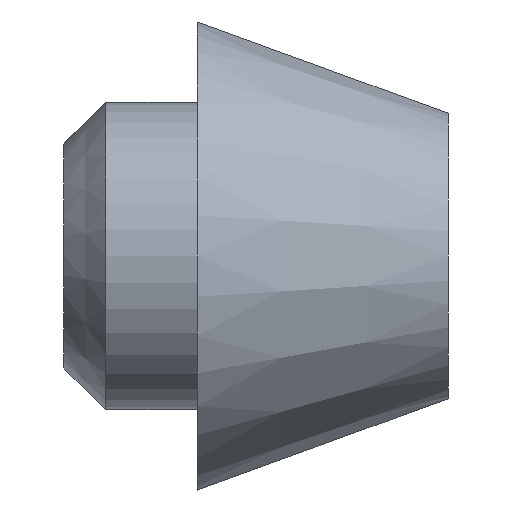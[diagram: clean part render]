
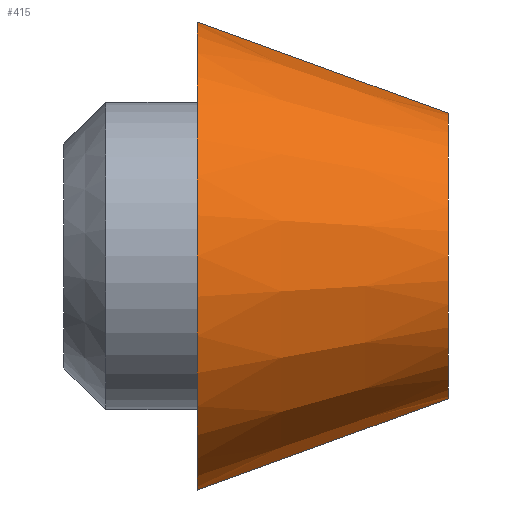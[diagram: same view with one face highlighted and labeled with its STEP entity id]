
A CAD part, left-side view. The second image highlights one B-rep face of the part: STEP entity #415.
In plain terms, the highlighted conical face has half-angle 20 degrees and reference radius 4.445 mm.
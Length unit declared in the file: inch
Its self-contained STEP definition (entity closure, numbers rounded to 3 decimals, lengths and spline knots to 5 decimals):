
#8 = DIRECTION ( 'NONE',  ( 0., 1., 0. ) ) ;
#10 = DIRECTION ( 'NONE',  ( 0., 1., 0. ) ) ;
#22 = DIRECTION ( 'NONE',  ( 0., 0., 1. ) ) ;
#25 = EDGE_CURVE ( 'NONE', #255, #74, #326, .T. ) ;
#31 = CARTESIAN_POINT ( 'NONE',  ( -0.5, 0., -0.175 ) ) ;
#45 = ORIENTED_EDGE ( 'NONE', *, *, #237, .F. ) ;
#58 = VERTEX_POINT ( 'NONE', #433 ) ;
#62 = CIRCLE ( 'NONE', #390, 0.175 ) ;
#74 = VERTEX_POINT ( 'NONE', #214 ) ;
#77 = CARTESIAN_POINT ( 'NONE',  ( -0.5, -0.1875, 0.10676 ) ) ;
#85 = ORIENTED_EDGE ( 'NONE', *, *, #25, .T. ) ;
#86 = EDGE_CURVE ( 'NONE', #58, #206, #322, .T. ) ;
#121 = ORIENTED_EDGE ( 'NONE', *, *, #86, .F. ) ;
#149 = DIRECTION ( 'NONE',  ( 0., 1., 0. ) ) ;
#153 = VECTOR ( 'NONE', #429, 39.37008 ) ;
#183 = CARTESIAN_POINT ( 'NONE',  ( -0.5, 0., 0. ) ) ;
#184 = CIRCLE ( 'NONE', #430, 0.10676 ) ;
#206 = VERTEX_POINT ( 'NONE', #372 ) ;
#208 = VECTOR ( 'NONE', #355, 39.37008 ) ;
#214 = CARTESIAN_POINT ( 'NONE',  ( -0.5, 0., 0.175 ) ) ;
#218 = DIRECTION ( 'NONE',  ( 0., 0., 1. ) ) ;
#225 = CARTESIAN_POINT ( 'NONE',  ( -0.5, -0.1875, 0. ) ) ;
#235 = CARTESIAN_POINT ( 'NONE',  ( -0.5, 0., 0. ) ) ;
#236 = ORIENTED_EDGE ( 'NONE', *, *, #244, .T. ) ;
#237 = EDGE_CURVE ( 'NONE', #206, #74, #62, .T. ) ;
#242 = CONICAL_SURFACE ( 'NONE', #321, 0.175, 0.349 ) ;
#244 = EDGE_CURVE ( 'NONE', #58, #255, #184, .T. ) ;
#255 = VERTEX_POINT ( 'NONE', #77 ) ;
#301 = DIRECTION ( 'NONE',  ( 0., 0., 1. ) ) ;
#320 = CARTESIAN_POINT ( 'NONE',  ( -0.5, 0., 0.175 ) ) ;
#321 = AXIS2_PLACEMENT_3D ( 'NONE', #235, #10, #22 ) ;
#322 = LINE ( 'NONE', #31, #153 ) ;
#326 = LINE ( 'NONE', #320, #208 ) ;
#355 = DIRECTION ( 'NONE',  ( 0., 0.94, 0.342 ) ) ;
#372 = CARTESIAN_POINT ( 'NONE',  ( -0.5, 0., -0.175 ) ) ;
#384 = FACE_OUTER_BOUND ( 'NONE', #385, .T. ) ;
#385 = EDGE_LOOP ( 'NONE', ( #45, #121, #236, #85 ) ) ;
#390 = AXIS2_PLACEMENT_3D ( 'NONE', #183, #149, #301 ) ;
#415 = ADVANCED_FACE ( 'NONE', ( #384 ), #242, .T. ) ;
#429 = DIRECTION ( 'NONE',  ( 0., 0.94, -0.342 ) ) ;
#430 = AXIS2_PLACEMENT_3D ( 'NONE', #225, #8, #218 ) ;
#433 = CARTESIAN_POINT ( 'NONE',  ( -0.5, -0.1875, -0.10676 ) ) ;
